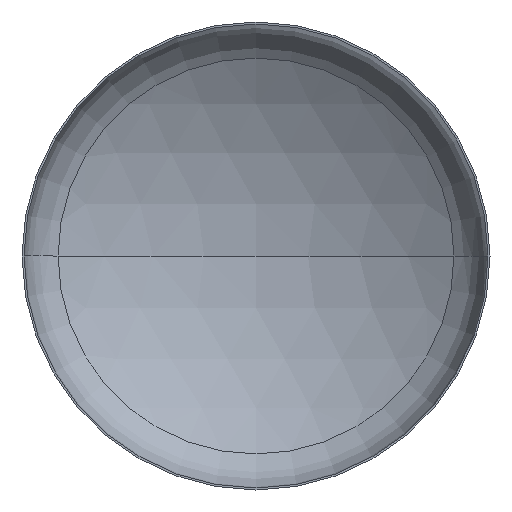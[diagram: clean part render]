
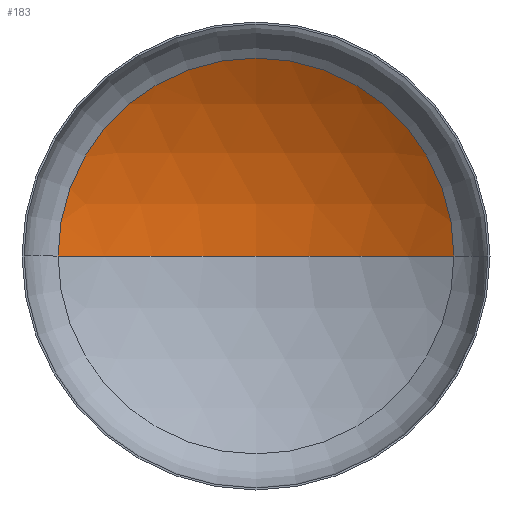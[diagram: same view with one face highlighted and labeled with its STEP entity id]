
A CAD part, front view. The second image highlights one B-rep face of the part: STEP entity #183.
In plain terms, the highlighted spherical face has radius 5600 mm.
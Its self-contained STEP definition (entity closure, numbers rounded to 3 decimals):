
#24 = AXIS2_PLACEMENT_3D ( 'NONE', #231, #203, #172 ) ;
#48 = AXIS2_PLACEMENT_3D ( 'NONE', #254, #180, #174 ) ;
#54 = AXIS2_PLACEMENT_3D ( 'NONE', #120, #144, #146 ) ;
#58 = AXIS2_PLACEMENT_3D ( 'NONE', #271, #266, #253 ) ;
#64 = CARTESIAN_POINT ( 'NONE',  ( 0., 1853.556, 0. ) ) ;
#76 = CARTESIAN_POINT ( 'NONE',  ( 2961.062, 1006.672, 0. ) ) ;
#93 = EDGE_CURVE ( 'NONE', #370, #282, #100, .T. ) ;
#95 = EDGE_CURVE ( 'NONE', #409, #370, #327, .T. ) ;
#96 = EDGE_CURVE ( 'NONE', #409, #282, #257, .T. ) ;
#100 = CIRCLE ( 'NONE', #58, 2961.062 ) ;
#120 = CARTESIAN_POINT ( 'NONE',  ( 0., -3746.444, 0. ) ) ;
#129 = ORIENTED_EDGE ( 'NONE', *, *, #93, .T. ) ;
#144 = DIRECTION ( 'NONE',  ( 0., 0., -1. ) ) ;
#146 = DIRECTION ( 'NONE',  ( -1., 0., 0. ) ) ;
#172 = DIRECTION ( 'NONE',  ( -1., 0., 0. ) ) ;
#174 = DIRECTION ( 'NONE',  ( 1., 0., 0. ) ) ;
#180 = DIRECTION ( 'NONE',  ( 0., 0., 1. ) ) ;
#183 = ADVANCED_FACE ( 'NONE', ( #301 ), #244, .F. ) ;
#203 = DIRECTION ( 'NONE',  ( 0., 0., -1. ) ) ;
#221 = ORIENTED_EDGE ( 'NONE', *, *, #95, .T. ) ;
#231 = CARTESIAN_POINT ( 'NONE',  ( 0., -3746.444, 0. ) ) ;
#244 = SPHERICAL_SURFACE ( 'NONE', #24, 5600. ) ;
#253 = DIRECTION ( 'NONE',  ( 1., 0., 0. ) ) ;
#254 = CARTESIAN_POINT ( 'NONE',  ( 0., -3746.444, 0. ) ) ;
#257 = CIRCLE ( 'NONE', #48, 5600. ) ;
#266 = DIRECTION ( 'NONE',  ( 0., -1., 0. ) ) ;
#271 = CARTESIAN_POINT ( 'NONE',  ( 0., 1006.672, 0. ) ) ;
#282 = VERTEX_POINT ( 'NONE', #380 ) ;
#297 = EDGE_LOOP ( 'NONE', ( #399, #221, #129 ) ) ;
#301 = FACE_OUTER_BOUND ( 'NONE', #297, .T. ) ;
#327 = CIRCLE ( 'NONE', #54, 5600. ) ;
#370 = VERTEX_POINT ( 'NONE', #76 ) ;
#380 = CARTESIAN_POINT ( 'NONE',  ( -2961.062, 1006.672, 0. ) ) ;
#399 = ORIENTED_EDGE ( 'NONE', *, *, #96, .F. ) ;
#409 = VERTEX_POINT ( 'NONE', #64 ) ;
